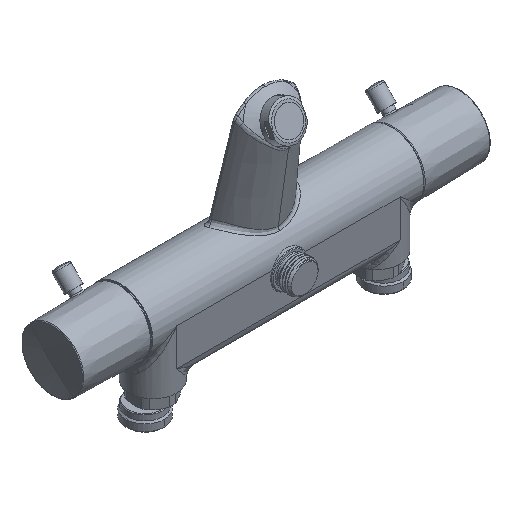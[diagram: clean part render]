
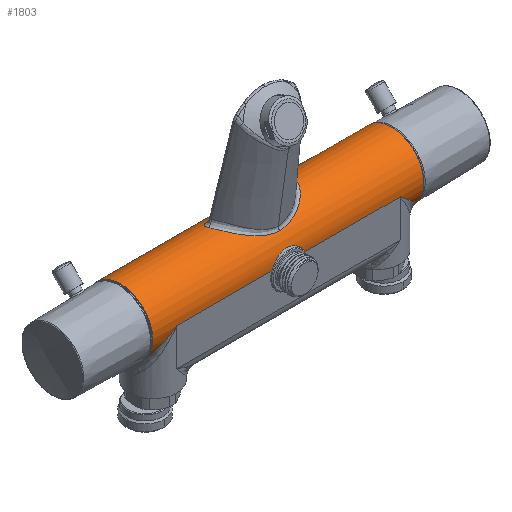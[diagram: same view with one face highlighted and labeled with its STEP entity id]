
A CAD part, isometric view. The second image highlights one B-rep face of the part: STEP entity #1803.
In plain terms, the highlighted cylindrical face has radius 21.75 mm (diameter 43.5 mm), a partial arc.
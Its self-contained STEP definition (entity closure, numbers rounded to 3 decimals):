
#1=CARTESIAN_POINT('',(91.,0.,0.));
#2=DIRECTION('',(-1.,0.,0.));
#3=DIRECTION('',(0.,-0.775,-0.632));
#4=AXIS2_PLACEMENT_3D('',#1,#2,#3);
#65=CARTESIAN_POINT('',(-91.,0.,0.));
#66=DIRECTION('',(-1.,0.,0.));
#67=DIRECTION('',(0.,-0.775,-0.632));
#68=AXIS2_PLACEMENT_3D('',#65,#66,#67);
#364=CARTESIAN_POINT('',(91.,-16.85,-13.753));
#365=CARTESIAN_POINT('',(90.586,-17.153,-13.381));
#366=CARTESIAN_POINT('',(89.706,-17.753,-12.597));
#367=CARTESIAN_POINT('',(88.187,-18.631,-11.261));
#368=CARTESIAN_POINT('',(86.579,-19.406,-9.863));
#369=CARTESIAN_POINT('',(84.943,-20.06,-8.452));
#370=CARTESIAN_POINT('',(83.324,-20.588,-7.065));
#371=CARTESIAN_POINT('',(81.666,-21.022,-5.65));
#372=CARTESIAN_POINT('',(79.819,-21.386,-4.079));
#373=CARTESIAN_POINT('',(77.677,-21.663,-2.264));
#374=CARTESIAN_POINT('',(75.937,-21.75,
-0.792));
#375=CARTESIAN_POINT('',(75.,-21.75,0.));
#377=DIRECTION('',(-1.,0.,0.));
#378=VECTOR('',#377,64.038);
#379=CARTESIAN_POINT('',(75.,-21.75,0.));
#380=LINE('',#379,#378);
#381=CARTESIAN_POINT('',(10.962,-21.75,0.));
#382=CARTESIAN_POINT('',(10.66,-21.75,0.736));
#383=CARTESIAN_POINT('',(9.924,-21.676,2.11));
#384=CARTESIAN_POINT('',(8.481,-21.422,3.882));
#385=CARTESIAN_POINT('',(6.687,-21.09,5.376));
#386=CARTESIAN_POINT('',(4.619,-20.764,6.499));
#387=CARTESIAN_POINT('',(2.338,-20.527,7.196));
#388=CARTESIAN_POINT('',(0.79,-20.47,7.35));
#389=CARTESIAN_POINT('',(0.,-20.47,7.35));
#391=CARTESIAN_POINT('',(0.,-20.47,7.35));
#392=CARTESIAN_POINT('',(-0.79,-20.47,7.35));
#393=CARTESIAN_POINT('',(-2.338,-20.527,7.196));
#394=CARTESIAN_POINT('',(-4.619,-20.764,6.499));
#395=CARTESIAN_POINT('',(-6.687,-21.09,5.376));
#396=CARTESIAN_POINT('',(-8.48,-21.422,3.883));
#397=CARTESIAN_POINT('',(-9.924,-21.676,2.11));
#398=CARTESIAN_POINT('',(-10.66,-21.75,0.736));
#399=CARTESIAN_POINT('',(-10.962,-21.75,0.));
#401=DIRECTION('',(-1.,0.,0.));
#402=VECTOR('',#401,64.038);
#403=CARTESIAN_POINT('',(-10.962,-21.75,0.));
#404=LINE('',#403,#402);
#405=CARTESIAN_POINT('',(-75.,-21.75,0.));
#406=CARTESIAN_POINT('',(-75.917,-21.75,
-0.776));
#407=CARTESIAN_POINT('',(-77.634,-21.667,
-2.228));
#408=CARTESIAN_POINT('',(-79.799,-21.391,
-4.063));
#409=CARTESIAN_POINT('',(-81.694,-21.017,
-5.673));
#410=CARTESIAN_POINT('',(-83.401,-20.566,
-7.13));
#411=CARTESIAN_POINT('',(-85.041,-20.024,
-8.537));
#412=CARTESIAN_POINT('',(-86.659,-19.371,
-9.932));
#413=CARTESIAN_POINT('',(-88.229,-18.607,
-11.298));
#414=CARTESIAN_POINT('',(-89.716,-17.746,
-12.607));
#415=CARTESIAN_POINT('',(-90.588,-17.152,
-13.383));
#416=CARTESIAN_POINT('',(-91.,-16.85,-13.753));
#418=CARTESIAN_POINT('',(-91.,8.151,-20.165));
#419=CARTESIAN_POINT('',(-90.056,8.843,-19.885));
#420=CARTESIAN_POINT('',(-88.08,10.06,-19.313));
#421=CARTESIAN_POINT('',(-84.742,11.496,-18.481));
#422=CARTESIAN_POINT('',(-81.417,12.424,-17.858));
#423=CARTESIAN_POINT('',(-78.227,12.932,-17.49));
#424=CARTESIAN_POINT('',(-75.204,13.097,-17.364));
#425=CARTESIAN_POINT('',(-72.201,12.972,-17.459));
#426=CARTESIAN_POINT('',(-69.059,12.524,-17.788));
#427=CARTESIAN_POINT('',(-65.72,11.649,-18.382));
#428=CARTESIAN_POINT('',(-63.521,10.761,-18.911));
#429=CARTESIAN_POINT('',(-62.425,10.219,-19.2));
#431=DIRECTION('',(1.,0.,0.));
#432=VECTOR('',#431,124.85);
#433=CARTESIAN_POINT('',(-62.425,10.219,-19.2));
#434=LINE('',#433,#432);
#435=CARTESIAN_POINT('',(62.426,10.219,-19.2));
#436=CARTESIAN_POINT('',(63.522,10.761,-18.911));
#437=CARTESIAN_POINT('',(65.719,11.649,-18.382));
#438=CARTESIAN_POINT('',(69.059,12.524,-17.788));
#439=CARTESIAN_POINT('',(72.2,12.972,-17.459));
#440=CARTESIAN_POINT('',(75.204,13.097,-17.364));
#441=CARTESIAN_POINT('',(78.227,12.932,-17.49));
#442=CARTESIAN_POINT('',(81.417,12.424,-17.858));
#443=CARTESIAN_POINT('',(84.742,11.496,-18.481));
#444=CARTESIAN_POINT('',(88.08,10.06,-19.313));
#445=CARTESIAN_POINT('',(90.056,8.843,-19.885));
#446=CARTESIAN_POINT('',(91.,8.151,-20.165));
#1513=CARTESIAN_POINT('',(75.,-21.75,0.));
#1514=VERTEX_POINT('',#1513);
#1515=CARTESIAN_POINT('',(-75.,-21.75,0.));
#1516=VERTEX_POINT('',#1515);
#1517=CARTESIAN_POINT('',(-62.425,10.219,
-19.2));
#1518=CARTESIAN_POINT('',(62.426,10.219,-19.2));
#1519=VERTEX_POINT('',#1517);
#1520=VERTEX_POINT('',#1518);
#1553=CARTESIAN_POINT('',(91.,-16.85,-13.753));
#1554=CARTESIAN_POINT('',(91.,8.151,-20.165));
#1555=VERTEX_POINT('',#1553);
#1556=VERTEX_POINT('',#1554);
#1559=VERTEX_POINT('',#391);
#1560=VERTEX_POINT('',#399);
#1563=VERTEX_POINT('',#381);
#1564=CARTESIAN_POINT('',(-91.,-16.85,-13.753));
#1565=CARTESIAN_POINT('',(-91.,8.151,-20.165));
#1566=VERTEX_POINT('',#1564);
#1567=VERTEX_POINT('',#1565);
#1776=CARTESIAN_POINT('',(-92.5,0.,0.));
#1777=DIRECTION('',(1.,0.,0.));
#1778=DIRECTION('',(0.,0.,1.));
#1779=AXIS2_PLACEMENT_3D('',#1776,#1777,#1778);
#1780=CYLINDRICAL_SURFACE('',#1779,21.75);
#1781=ORIENTED_EDGE('',*,*,#1629,.F.);
#1783=ORIENTED_EDGE('',*,*,#1782,.T.);
#1785=ORIENTED_EDGE('',*,*,#1784,.T.);
#1787=ORIENTED_EDGE('',*,*,#1786,.T.);
#1789=ORIENTED_EDGE('',*,*,#1788,.T.);
#1791=ORIENTED_EDGE('',*,*,#1790,.T.);
#1793=ORIENTED_EDGE('',*,*,#1792,.T.);
#1794=ORIENTED_EDGE('',*,*,#1677,.T.);
#1796=ORIENTED_EDGE('',*,*,#1795,.T.);
#1798=ORIENTED_EDGE('',*,*,#1797,.T.);
#1800=ORIENTED_EDGE('',*,*,#1799,.T.);
#1801=EDGE_LOOP('',(#1781,#1783,#1785,#1787,#1789,#1791,#1793,#1794,#1796,#1798,
#1800));
#1802=FACE_OUTER_BOUND('',#1801,.F.);
#1803=ADVANCED_FACE('',(#1802),#1780,.T.);
#5=CIRCLE('',#4,21.75);
#69=CIRCLE('',#68,21.75);
#376=B_SPLINE_CURVE_WITH_KNOTS('',3,(#364,#365,#366,#367,#368,#369,#370,#371,
#372,#373,#374,#375),.UNSPECIFIED.,.F.,.F.,(4,1,1,1,1,1,1,1,1,4),(0.,
0.111,0.222,0.333,0.444,
0.556,0.667,0.778,0.889,1.),
.UNSPECIFIED.);
#390=B_SPLINE_CURVE_WITH_KNOTS('',3,(#381,#382,#383,#384,#385,#386,#387,#388,
#389),.UNSPECIFIED.,.F.,.F.,(4,1,1,1,1,1,4),(0.,0.167,
0.333,0.5,0.667,0.833,1.),
.UNSPECIFIED.);
#400=B_SPLINE_CURVE_WITH_KNOTS('',3,(#391,#392,#393,#394,#395,#396,#397,#398,
#399),.UNSPECIFIED.,.F.,.F.,(4,1,1,1,1,1,4),(0.,0.167,
0.333,0.5,0.667,0.833,1.),
.UNSPECIFIED.);
#417=B_SPLINE_CURVE_WITH_KNOTS('',3,(#405,#406,#407,#408,#409,#410,#411,#412,
#413,#414,#415,#416),.UNSPECIFIED.,.F.,.F.,(4,1,1,1,1,1,1,1,1,4),(0.,
0.111,0.222,0.333,0.444,
0.556,0.667,0.778,0.889,1.),
.UNSPECIFIED.);
#430=B_SPLINE_CURVE_WITH_KNOTS('',3,(#418,#419,#420,#421,#422,#423,#424,#425,
#426,#427,#428,#429),.UNSPECIFIED.,.F.,.F.,(4,1,1,1,1,1,1,1,1,4),(0.,
0.111,0.222,0.333,0.444,
0.556,0.667,0.778,0.889,1.),
.UNSPECIFIED.);
#447=B_SPLINE_CURVE_WITH_KNOTS('',3,(#435,#436,#437,#438,#439,#440,#441,#442,
#443,#444,#445,#446),.UNSPECIFIED.,.F.,.F.,(4,1,1,1,1,1,1,1,1,4),(0.,
0.111,0.222,0.333,0.444,
0.556,0.667,0.778,0.889,1.),
.UNSPECIFIED.);
#1629=EDGE_CURVE('',#1555,#1556,#5,.T.);
#1677=EDGE_CURVE('',#1566,#1567,#69,.T.);
#1782=EDGE_CURVE('',#1555,#1514,#376,.T.);
#1784=EDGE_CURVE('',#1514,#1563,#380,.T.);
#1786=EDGE_CURVE('',#1563,#1559,#390,.T.);
#1788=EDGE_CURVE('',#1559,#1560,#400,.T.);
#1790=EDGE_CURVE('',#1560,#1516,#404,.T.);
#1792=EDGE_CURVE('',#1516,#1566,#417,.T.);
#1795=EDGE_CURVE('',#1567,#1519,#430,.T.);
#1797=EDGE_CURVE('',#1519,#1520,#434,.T.);
#1799=EDGE_CURVE('',#1520,#1556,#447,.T.);
